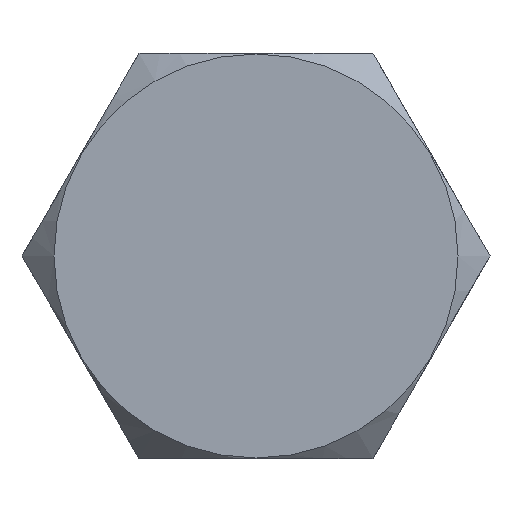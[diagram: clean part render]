
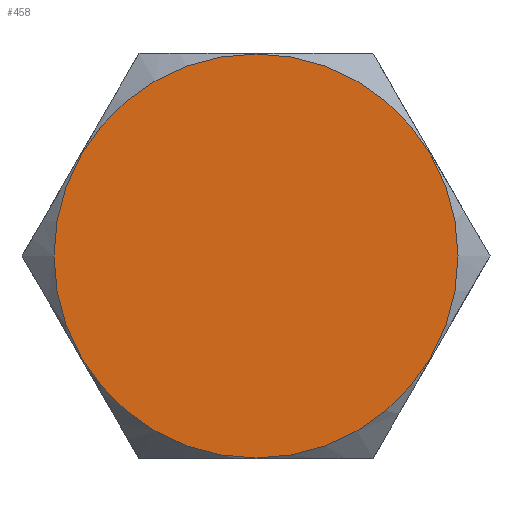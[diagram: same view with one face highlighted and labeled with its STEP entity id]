
A CAD part, front view. The second image highlights one B-rep face of the part: STEP entity #458.
In plain terms, the highlighted planar face has unit normal (0, -1, 0).
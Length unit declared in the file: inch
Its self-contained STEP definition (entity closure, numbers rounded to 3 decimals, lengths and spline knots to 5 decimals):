
#42=PLANE('',#527);
#87=FACE_OUTER_BOUND('',#117,.T.);
#117=EDGE_LOOP('',(#425));
#185=CIRCLE('',#526,0.311);
#227=VERTEX_POINT('',#859);
#292=EDGE_CURVE('',#227,#227,#185,.T.);
#425=ORIENTED_EDGE('',*,*,#292,.F.);
#458=ADVANCED_FACE('',(#87),#42,.T.);
#526=AXIS2_PLACEMENT_3D('',#860,#658,#659);
#527=AXIS2_PLACEMENT_3D('',#862,#661,#662);
#658=DIRECTION('center_axis',(0.,1.,0.));
#659=DIRECTION('ref_axis',(0.,0.,1.));
#661=DIRECTION('center_axis',(0.,-1.,0.));
#662=DIRECTION('ref_axis',(0.,0.,-1.));
#859=CARTESIAN_POINT('',(0.,0.,-0.311));
#860=CARTESIAN_POINT('Origin',(0.,0.,0.));
#862=CARTESIAN_POINT('Origin',(0.,0.,0.));
